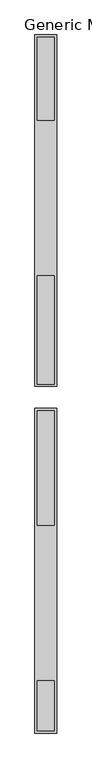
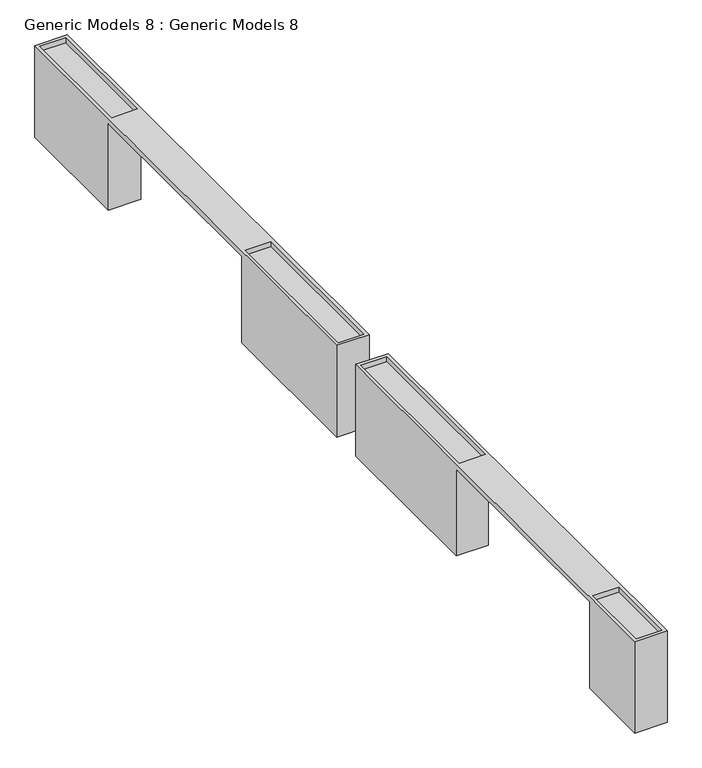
"""IFC4 building model written with IfcOpenShell, lengths in millimetres: proxy geometry, Generic Models 8 : Generic Models 8."""

from ifc_helpers import new_model, si_unit, origin, place, context, project, spatial, faceted_brep, source, transform, mapped, element, save


def generic_models_8_generic_models_8_950a818f(model_context):
    return source(origin(), model_context, "Body", "Brep", [
        faceted_brep([(24845.3362243, 16205.264194, 900.0), (24845.3362243, 11345.264194, 900.0), (25145.3362243, 11345.264194, 900.0), (25145.3362243, 16205.264194, 900.0), (24875.3362243, 12872.4213335, 900.0), (25115.3362243, 12872.4213335, 900.0), (25115.3362243, 11375.264194, 900.0), (24875.3362243, 11375.264194, 900.0), (25115.3362243, 15022.4213335, 900.0), (24875.3362243, 15022.4213335, 900.0), (24875.3362243, 16175.264194, 900.0), (25115.3362243, 16175.264194, 900.0), (24845.3362243, 16205.264194, 0.0), (25145.3362243, 16205.264194, 0.0), (25145.3362243, 15022.4213335, 0.0), (24845.3362243, 15022.4213335, 0.0), (25145.3362243, 11345.264194, 0.0), (24845.3362243, 11345.264194, 0.0), (24845.3362243, 12872.4213335, 0.0), (25145.3362243, 12872.4213335, 0.0), (24845.3362243, 15022.4213335, 850.0), (24845.3362243, 12872.4213335, 850.0), (25145.3362243, 12872.4213335, 850.0), (25145.3362243, 15022.4213335, 850.0), (24875.3362243, 12872.4213335, 850.0), (24875.3362243, 11375.264194, 850.0), (25115.3362243, 11375.264194, 850.0), (25115.3362243, 12872.4213335, 850.0), (25115.3362243, 15022.4213335, 850.0), (25115.3362243, 16175.264194, 850.0), (24875.3362243, 16175.264194, 850.0), (24875.3362243, 15022.4213335, 850.0), (24875.3362243, 12872.4213335, 850.0), (24875.3362243, 15022.4213335, 850.0), (25115.3362243, 15022.4213335, 850.0), (25115.3362243, 12872.4213335, 850.0)], [[[0, 1, 2, 3], [4, 5, 6, 7], [8, 9, 10, 11]], [[12, 13, 14, 15]], [[16, 17, 18, 19]], [[1, 0, 12, 15, 20, 21, 18, 17]], [[2, 1, 17, 16]], [[3, 2, 16, 19, 22, 23, 14, 13]], [[0, 3, 13, 12]], [[24, 25, 26, 27]], [[28, 29, 30, 31]], [[24, 27, 5, 4]], [[27, 26, 6, 5]], [[26, 25, 7, 6]], [[25, 24, 4, 7]], [[28, 31, 9, 8]], [[31, 30, 10, 9]], [[30, 29, 11, 10]], [[29, 28, 8, 11]], [[32, 21, 20, 33, 34, 23, 22, 35]], [[21, 32, 35, 22, 19, 18]], [[23, 34, 33, 20, 15, 14]]]),
        faceted_brep([(24845.3362243, 11037.764194, 900.0), (24845.3362243, 6547.4213335, 900.0), (25145.3362243, 6547.4213335, 900.0), (25145.3362243, 11037.764194, 900.0), (24875.3362243, 7272.4213335, 900.0), (25115.3362243, 7272.4213335, 900.0), (25115.3362243, 6577.4213335, 900.0), (24875.3362243, 6577.4213335, 900.0), (25115.3362243, 11007.764194, 900.0), (25115.3362243, 9422.4213335, 900.0), (24875.3362243, 9422.4213335, 900.0), (24875.3362243, 11007.764194, 900.0), (24845.3362243, 11037.764194, 0.0), (25145.3362243, 11037.764194, 0.0), (25145.3362243, 9422.4213335, 0.0), (24845.3362243, 9422.4213335, 0.0), (25145.3362243, 6547.4213335, 0.0), (24845.3362243, 6547.4213335, 0.0), (24845.3362243, 7272.4213335, 0.0), (25145.3362243, 7272.4213335, 0.0), (24845.3362243, 9422.4213335, 850.0), (24845.3362243, 7272.4213335, 850.0), (25145.3362243, 7272.4213335, 850.0), (25145.3362243, 9422.4213335, 850.0), (24875.3362243, 7272.4213335, 850.0), (24875.3362243, 6577.4213335, 850.0), (25115.3362243, 6577.4213335, 850.0), (25115.3362243, 7272.4213335, 850.0), (25115.3362243, 11007.764194, 850.0), (24875.3362243, 11007.764194, 850.0), (24875.3362243, 9422.4213335, 850.0), (25115.3362243, 9422.4213335, 850.0), (24875.3362243, 7272.4213335, 850.0), (24875.3362243, 9422.4213335, 850.0), (25115.3362243, 9422.4213335, 850.0), (25115.3362243, 7272.4213335, 850.0)], [[[0, 1, 2, 3], [4, 5, 6, 7], [8, 9, 10, 11]], [[12, 13, 14, 15]], [[16, 17, 18, 19]], [[1, 0, 12, 15, 20, 21, 18, 17]], [[2, 1, 17, 16]], [[3, 2, 16, 19, 22, 23, 14, 13]], [[0, 3, 13, 12]], [[24, 25, 26, 27]], [[28, 29, 30, 31]], [[24, 27, 5, 4]], [[27, 26, 6, 5]], [[26, 25, 7, 6]], [[25, 24, 4, 7]], [[28, 31, 9, 8]], [[31, 30, 10, 9]], [[30, 29, 11, 10]], [[29, 28, 8, 11]], [[32, 21, 20, 33, 34, 23, 22, 35]], [[21, 32, 35, 22, 19, 18]], [[33, 20, 15, 14, 23, 34]]]),
    ])


if __name__ == "__main__":
    model = new_model("IFC4")
    model_context = context("Model", 3, world=origin())
    ifc_project = project(units=[si_unit("LENGTHUNIT", "METRE", prefix="MILLI")], contexts=[model_context])
    site = spatial("IfcSite", under=ifc_project)
    building = spatial("IfcBuilding", under=site)
    placement = place(None, origin())
    generic_models_8_generic_models_8_shape = generic_models_8_generic_models_8_950a818f(model_context)
    element("IfcBuildingElementProxy", 1, Name="Generic Models 8 : Generic Models 8", ObjectType="Generic Models 8 : Generic Models 8", at=placement, inside=building, context=model_context, shape_type="MappedRepresentation", body=[
        mapped(generic_models_8_generic_models_8_shape, transform((0.0, 0.0, 0.0), x_axis=(1.0, 0.0, 0.0), y_axis=(0.0, 1.0, 0.0), z_axis=(0.0, 0.0, 1.0))),
    ])
    save(model, "model.ifc")
